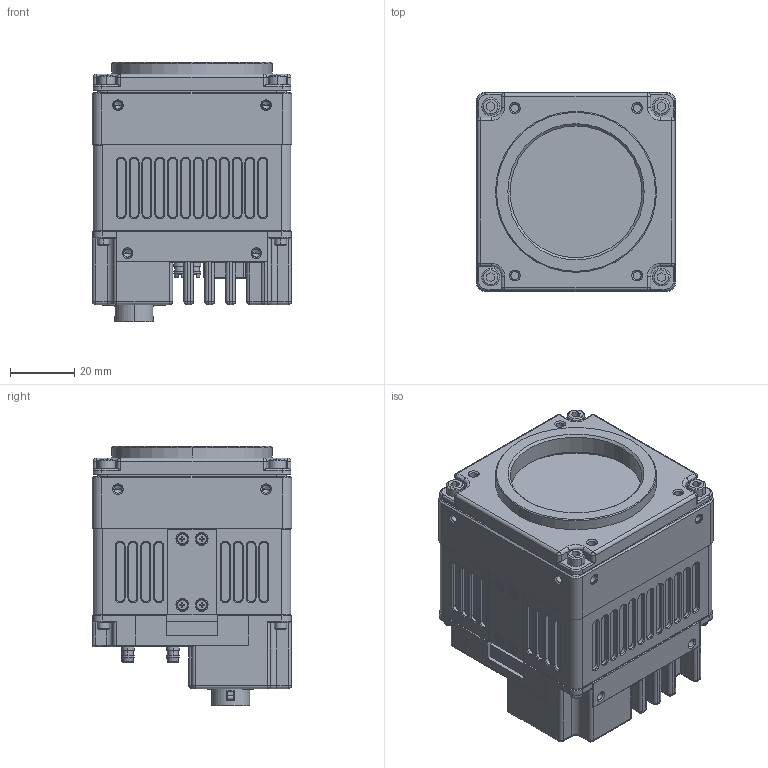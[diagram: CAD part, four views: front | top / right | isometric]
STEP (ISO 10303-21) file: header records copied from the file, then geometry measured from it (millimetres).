
FILE_DESCRIPTION((''),'2;1');
FILE_NAME('SW-4000TL-PMCL-M42A_MOCK','2026-04-27T11:47:22',('aso'),(''),'CREO PARAMETRIC BY PTC INC, 2025323','CREO PARAMETRIC BY PTC INC, 2025323','');
FILE_SCHEMA(('AUTOMOTIVE_DESIGN { 1 0 10303 214 1 1 1 1 }'));
Products named in the file (1): SW-4000TL-PMCL-M42A_MOCK
Bounding box: 62 x 62 x 80.6 mm (x, y, z)
Volume: 170803.3 mm3; surface area: 49199.1 mm2
Topology: 5 solids, 15 shells, 2684 faces, 7301 edges, 4598 vertices
Faces by surface type: plane 1505, cylinder 801, cone 255, sphere 55, torus 52, bspline 16
Entity records: 115628 total; most frequent: CARTESIAN_POINT 16992, ORIENTED_EDGE 14348, DIRECTION 14162, EDGE_CURVE 7198, PRESENTATION_STYLE_ASSIGNMENT 6906, STYLED_ITEM 5669, AXIS2_PLACEMENT_3D 4797, VERTEX_POINT 4598
